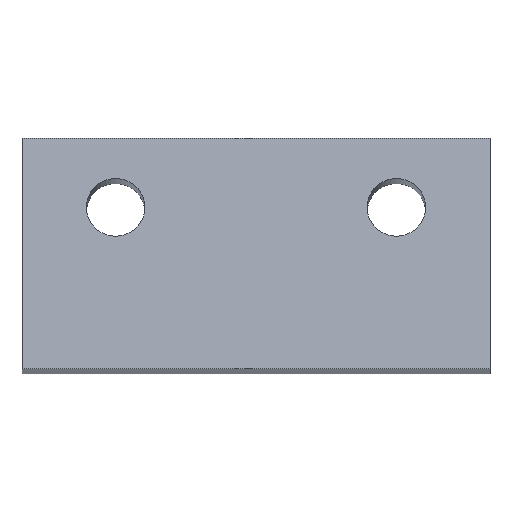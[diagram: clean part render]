
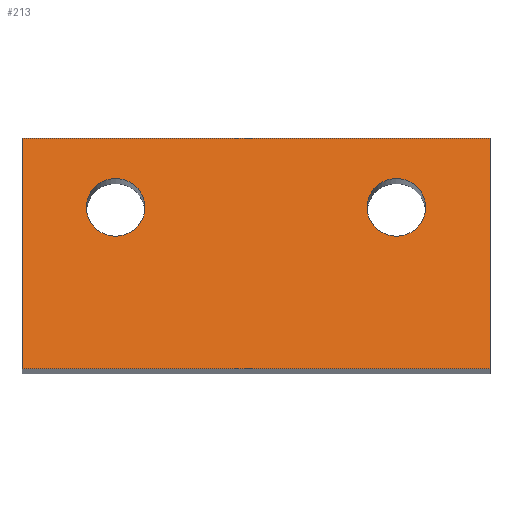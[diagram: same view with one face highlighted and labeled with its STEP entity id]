
A CAD part, front view. The second image highlights one B-rep face of the part: STEP entity #213.
In plain terms, the highlighted planar face has unit normal (0, -0.985, 0.174).
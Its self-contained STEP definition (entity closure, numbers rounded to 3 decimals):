
#37=CARTESIAN_POINT('',(-357.,7.398,238.634));
#38=VERTEX_POINT('',#37);
#45=CARTESIAN_POINT('',(-397.,7.398,238.634));
#46=VERTEX_POINT('',#45);
#47=CARTESIAN_POINT('',(-397.,7.398,238.634));
#48=DIRECTION('',(1.0,0.0,0.0));
#49=VECTOR('',#48,1.);
#50=LINE('',#47,#49);
#51=EDGE_CURVE('',#46,#38,#50,.T.);
#75=CARTESIAN_POINT('',(-357.,10.871,258.331));
#76=VERTEX_POINT('',#75);
#83=CARTESIAN_POINT('',(-357.,7.398,238.634));
#84=DIRECTION('',(0.,0.174,0.985));
#85=VECTOR('',#84,1.);
#86=LINE('',#83,#85);
#87=EDGE_CURVE('',#38,#76,#86,.T.);
#106=CARTESIAN_POINT('',(-397.,10.871,258.331));
#107=VERTEX_POINT('',#106);
#114=CARTESIAN_POINT('',(-357.,10.871,258.331));
#115=DIRECTION('',(-1.0,0.,0.));
#116=VECTOR('',#115,1.);
#117=LINE('',#114,#116);
#118=EDGE_CURVE('',#76,#107,#117,.T.);
#136=CARTESIAN_POINT('',(-397.,10.871,258.331));
#137=DIRECTION('',(0.,-0.174,-0.985));
#138=VECTOR('',#137,1.);
#139=LINE('',#136,#138);
#140=EDGE_CURVE('',#107,#46,#139,.T.);
#180=CARTESIAN_POINT('',(-397.,7.398,238.634));
#181=DIRECTION('',(0.0,-0.985,0.174));
#182=DIRECTION('',(1.0,0.0,0.0));
#183=AXIS2_PLACEMENT_3D('',#180,#181,#182);
#184=PLANE('',#183);
#185=ORIENTED_EDGE('',*,*,#51,.T.);
#186=ORIENTED_EDGE('',*,*,#87,.T.);
#187=ORIENTED_EDGE('',*,*,#118,.T.);
#188=ORIENTED_EDGE('',*,*,#140,.T.);
#189=EDGE_LOOP('',(#185,#186,#187,#188));
#190=FACE_OUTER_BOUND('',#189,.T.);
#191=CARTESIAN_POINT('',(-386.5,9.829,252.422));
#192=VERTEX_POINT('',#191);
#193=CARTESIAN_POINT('',(-389.0,9.829,252.422));
#194=DIRECTION('',(0.0,-0.985,0.174));
#195=DIRECTION('',(1.0,0.0,0.0));
#196=AXIS2_PLACEMENT_3D('',#193,#194,#195);
#197=CIRCLE('',#196,2.5);
#198=EDGE_CURVE('',#192,#192,#197,.T.);
#199=ORIENTED_EDGE('',*,*,#198,.F.);
#200=EDGE_LOOP('',(#199));
#201=FACE_BOUND('',#200,.T.);
#202=CARTESIAN_POINT('',(-362.5,9.829,252.422));
#203=VERTEX_POINT('',#202);
#204=CARTESIAN_POINT('',(-365.,9.829,252.422));
#205=DIRECTION('',(0.0,-0.985,0.174));
#206=DIRECTION('',(1.0,0.0,0.0));
#207=AXIS2_PLACEMENT_3D('',#204,#205,#206);
#208=CIRCLE('',#207,2.5);
#209=EDGE_CURVE('',#203,#203,#208,.T.);
#210=ORIENTED_EDGE('',*,*,#209,.F.);
#211=EDGE_LOOP('',(#210));
#212=FACE_BOUND('',#211,.T.);
#213=ADVANCED_FACE('',(#190,#201,#212),#184,.T.);
